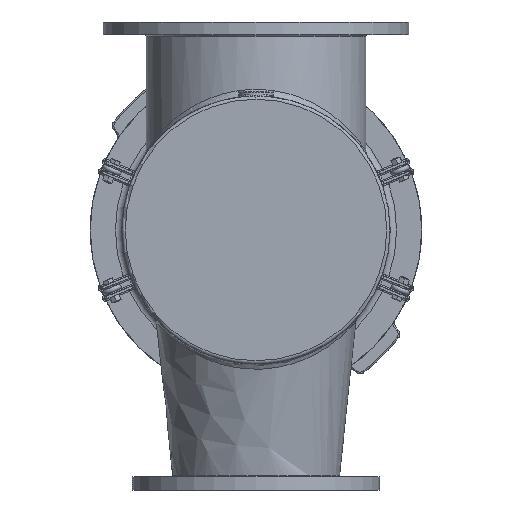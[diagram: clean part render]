
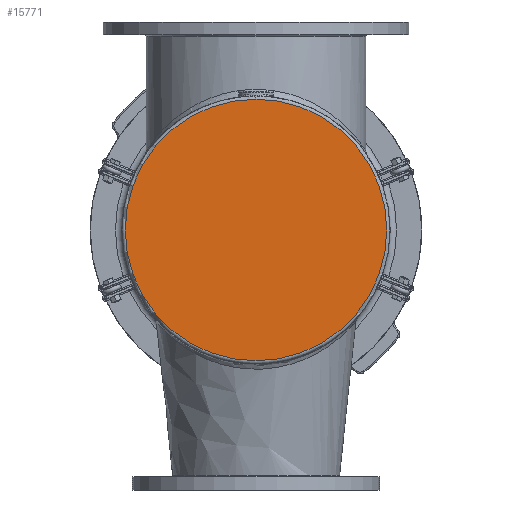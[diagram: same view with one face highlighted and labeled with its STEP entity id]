
A CAD part, front view. The second image highlights one B-rep face of the part: STEP entity #15771.
In plain terms, the highlighted planar face has unit normal (0, -1, 0).
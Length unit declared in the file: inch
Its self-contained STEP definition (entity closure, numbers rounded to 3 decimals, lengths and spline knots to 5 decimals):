
#2254=PLANE('',#16825);
#3591=FACE_OUTER_BOUND('',#4599,.T.);
#4599=EDGE_LOOP('',(#10524));
#5839=CIRCLE('',#16817,10.0625);
#6801=VERTEX_POINT('',#24017);
#8237=EDGE_CURVE('',#6801,#6801,#5839,.T.);
#10524=ORIENTED_EDGE('',*,*,#8237,.F.);
#15771=ADVANCED_FACE('',(#3591),#2254,.F.);
#16817=AXIS2_PLACEMENT_3D('',#24018,#18859,#18860);
#16825=AXIS2_PLACEMENT_3D('',#24029,#18875,#18876);
#18859=DIRECTION('center_axis',(0.,1.,0.));
#18860=DIRECTION('ref_axis',(1.,0.,0.));
#18875=DIRECTION('center_axis',(0.,1.,0.));
#18876=DIRECTION('ref_axis',(0.,0.,1.));
#24017=CARTESIAN_POINT('',(-10.0625,0.,0.));
#24018=CARTESIAN_POINT('Origin',(0.,0.,0.));
#24029=CARTESIAN_POINT('Origin',(0.,0.,0.));
